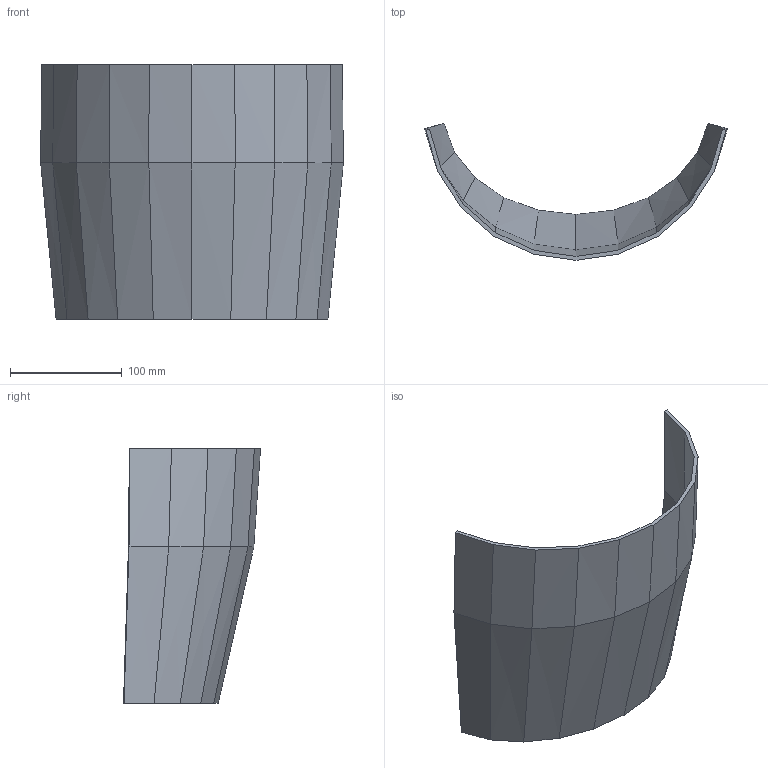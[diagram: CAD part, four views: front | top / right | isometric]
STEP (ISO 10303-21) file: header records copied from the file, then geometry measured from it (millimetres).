
FILE_DESCRIPTION(('Open CASCADE Model'),'2;1');
FILE_NAME('Open CASCADE Shape Model','2026-09-19T23:46:40',('Author'),( 'Open CASCADE'),'Open CASCADE STEP processor 7.9','Open CASCADE 7.9' ,'Unknown');
FILE_SCHEMA(('AUTOMOTIVE_DESIGN { 1 0 10303 214 1 1 1 1 }'));
Length unit declared in the file: millimetre
Products named in the file (1): Open CASCADE STEP translator 7.9 63
Bounding box: 271.33 x 122.85 x 228 mm (x, y, z)
Volume: 283250.1 mm3; surface area: 169250.2 mm2
Topology: 1 solids, 1 shells, 46 faces, 110 edges, 66 vertices
Faces by surface type: bspline 44, plane 2
Entity records: 2634 total; most frequent: CARTESIAN_POINT 659, DIRECTION 252, LINE 246, VECTOR 246, ORIENTED_EDGE 220, PCURVE 220, DEFINITIONAL_REPRESENTATION 220, EDGE_CURVE 110
